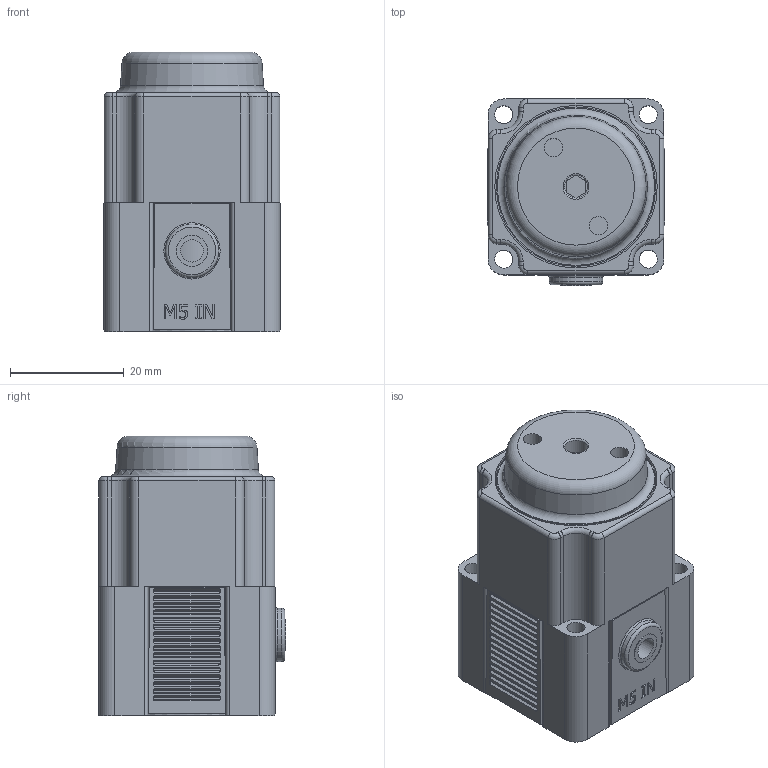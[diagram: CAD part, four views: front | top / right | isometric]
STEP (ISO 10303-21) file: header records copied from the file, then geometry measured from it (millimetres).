
FILE_DESCRIPTION(/* description */ (''),/* implementation_level */ '2;1');
FILE_NAME(/* name */ 'K:\Normteile INVENTOR\Air-Logic\Regulators\PR7000\PR 7___ S M5 Threads In.igs.ipt.stp',/* time_stamp */ '2020-05-27T10:54:41+02:00',/* author */ ('Paul'),/* organization */ (''),/* preprocessor_version */ 'ST-DEVELOPER v18',/* originating_system */ 'Autodesk Inventor 2020',/* authorisation */ '');
FILE_SCHEMA (('AUTOMOTIVE_DESIGN { 1 0 10303 214 3 1 1 }'));
Length unit declared in the file: inch
Products named in the file (1): PR 7___ S M5 Threads In.igs
Bounding box: 31.19 x 32.97 x 49.15 mm (x, y, z)
Volume: 39261.1 mm3; surface area: 12248.3 mm2
Topology: 1 solids, 1 shells, 631 faces, 1640 edges, 1071 vertices
Faces by surface type: plane 331, cylinder 248, bspline 29, torus 21, cone 2
Full cylindrical faces by diameter (mm): 3.175 x4, 3.226 x2, 3.962 x1, 4.013 x1, 5.486 x1, 6.248 x1, 9.169 x1, 9.398 x1, 9.652 x1, 12.903 x1, 26.264 x1, 27.991 x1, 28.047 x1, 28.575 x1
Entity records: 21551 total; most frequent: CARTESIAN_POINT 4959, DIRECTION 3468, ORIENTED_EDGE 3280, EDGE_CURVE 1640, AXIS2_PLACEMENT_3D 1341, VERTEX_POINT 1071, LINE 786, VECTOR 786
